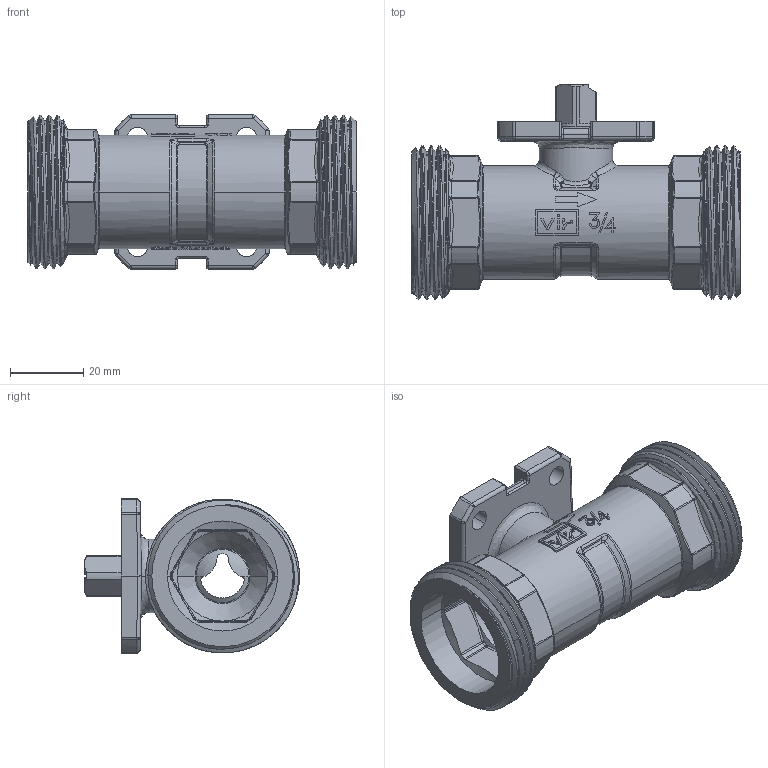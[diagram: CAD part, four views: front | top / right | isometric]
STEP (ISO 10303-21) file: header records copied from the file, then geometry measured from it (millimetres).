
FILE_DESCRIPTION((''),'2;1');
FILE_NAME('H988SX020_2314_SW0001','2015-05-22T',('64ciro'),('Vir spa'),'PRO/ENGINEER BY PARAMETRIC TECHNOLOGY CORPORATION, 2010280','PRO/ENGINEER BY PARAMETRIC TECHNOLOGY CORPORATION, 2010280','');
FILE_SCHEMA(('CONFIG_CONTROL_DESIGN'));
Products named in the file (1): H988SX020_2314_SW0001
Bounding box: 89.4 x 58.55 x 42 mm (x, y, z)
Volume: 53184.9 mm3; surface area: 30453.3 mm2
Topology: 1 solids, 1 shells, 1168 faces, 2987 edges, 1872 vertices
Faces by surface type: plane 538, cylinder 220, bspline 212, torus 90, cone 76, sphere 18, extrusion 14
Entity records: 47590 total; most frequent: CARTESIAN_POINT 21893, ORIENTED_EDGE 5974, DIRECTION 4485, EDGE_CURVE 2987, VERTEX_POINT 1872, AXIS2_PLACEMENT_3D 1765, B_SPLINE_CURVE_WITH_KNOTS 1237, EDGE_LOOP 1233
